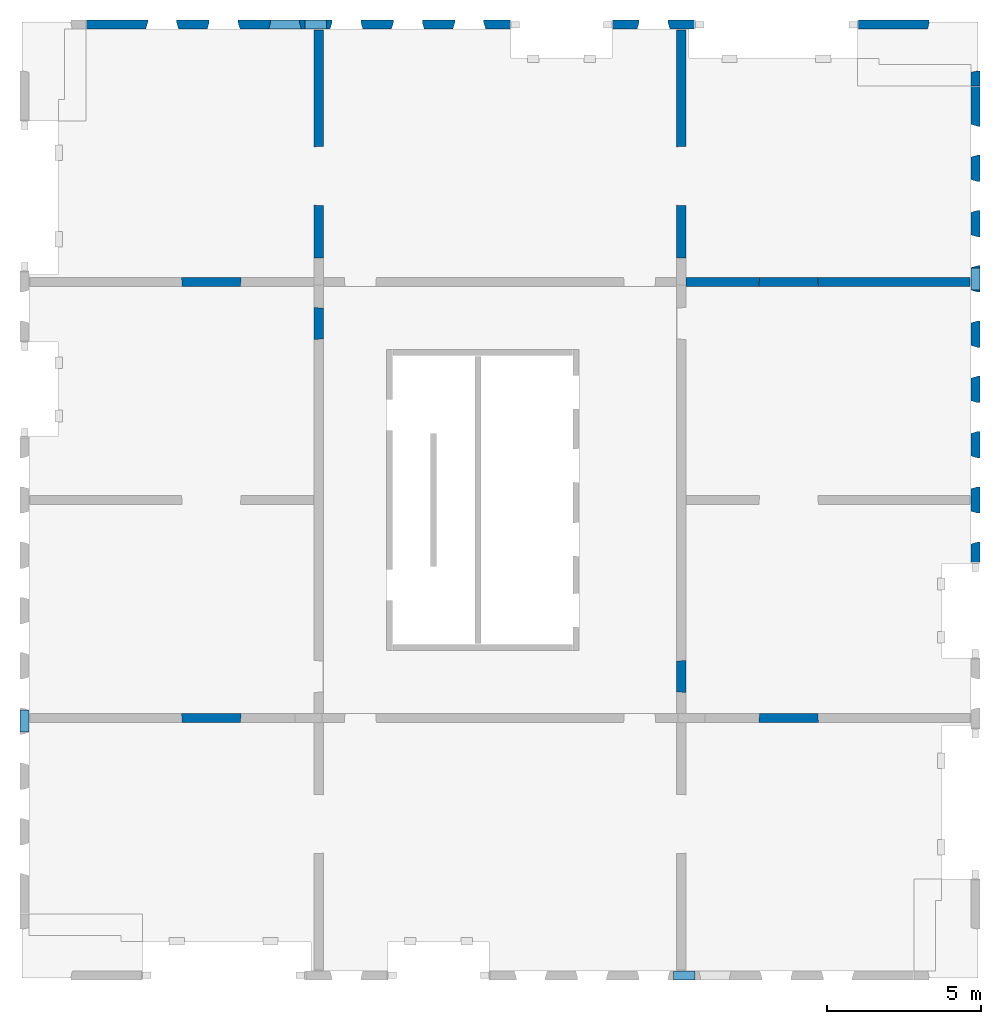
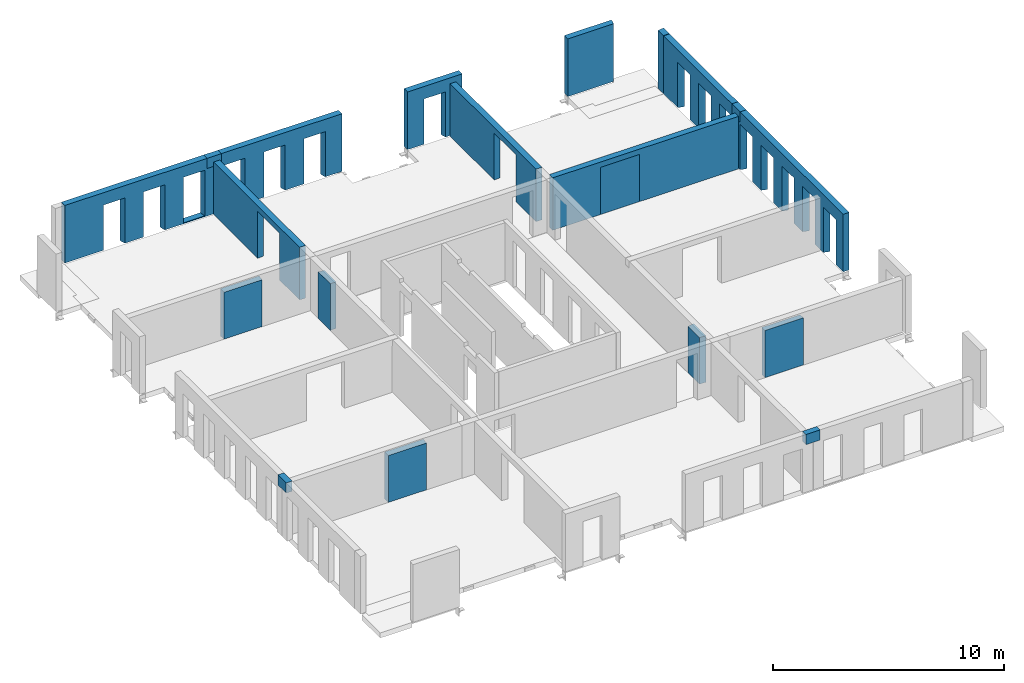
# One storey, part 4 of 4: 20 walls, 24 openings.
"""IFC2X3 building model written with IfcOpenShell, lengths in millimetres."""

from ifc_helpers import new_model, entity, si_unit, converted_unit, derived_unit, direction, frame, frame_2d, origin, origin_2d_with_axis, place, context, subcontext, project, spatial, rectangle, extrude, faceted_brep, material, layer, layer_set, layer_usage, type_object, element, save


model = new_model("IFC2X3")

# Units and contexts
model_context = context("Model", 3, precision=0.01, world=origin(), true_north=direction((6.12303176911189e-17, 1.0)))
body_context = subcontext(model_context, "Body", "Model", "MODEL_VIEW")
ifc_project = project(units=[si_unit("LENGTHUNIT", "METRE", prefix="MILLI"), si_unit("AREAUNIT", "SQUARE_METRE"), si_unit("VOLUMEUNIT", "CUBIC_METRE"), converted_unit("PLANEANGLEUNIT", "DEGREE", entity("IfcRatioMeasure", 0.0174532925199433), si_unit("PLANEANGLEUNIT", "RADIAN"), dimensions=[0, 0, 0, 0, 0, 0, 0]), si_unit("MASSUNIT", "GRAM", prefix="KILO"), derived_unit("MASSDENSITYUNIT", [(si_unit("MASSUNIT", "GRAM", prefix="KILO"), 1), (si_unit("LENGTHUNIT", "METRE"), -3)]), si_unit("TIMEUNIT", "SECOND"), si_unit("FREQUENCYUNIT", "HERTZ"), si_unit("THERMODYNAMICTEMPERATUREUNIT", "DEGREE_CELSIUS"), derived_unit("THERMALTRANSMITTANCEUNIT", [(si_unit("MASSUNIT", "GRAM", prefix="KILO"), 1), (si_unit("THERMODYNAMICTEMPERATUREUNIT", "KELVIN"), -1), (si_unit("TIMEUNIT", "SECOND"), -3)]), derived_unit("VOLUMETRICFLOWRATEUNIT", [(si_unit("LENGTHUNIT", "METRE"), 3), (si_unit("TIMEUNIT", "SECOND"), -1)]), si_unit("ELECTRICCURRENTUNIT", "AMPERE"), si_unit("ELECTRICVOLTAGEUNIT", "VOLT"), si_unit("POWERUNIT", "WATT"), si_unit("FORCEUNIT", "NEWTON", prefix="KILO"), si_unit("ILLUMINANCEUNIT", "LUX"), si_unit("LUMINOUSFLUXUNIT", "LUMEN"), si_unit("LUMINOUSINTENSITYUNIT", "CANDELA"), derived_unit("USERDEFINED", [(si_unit("MASSUNIT", "GRAM", prefix="KILO"), -1), (si_unit("LENGTHUNIT", "METRE"), -2), (si_unit("TIMEUNIT", "SECOND"), 3), (si_unit("LUMINOUSFLUXUNIT", "LUMEN"), 1)]), derived_unit("LINEARVELOCITYUNIT", [(si_unit("LENGTHUNIT", "METRE"), 1), (si_unit("TIMEUNIT", "SECOND"), -1)]), si_unit("PRESSUREUNIT", "PASCAL"), derived_unit("USERDEFINED", [(si_unit("LENGTHUNIT", "METRE"), -2), (si_unit("MASSUNIT", "GRAM", prefix="KILO"), 1), (si_unit("TIMEUNIT", "SECOND"), -2)])], contexts=[model_context])

# Site, building, storey
site_placement = place(None, origin())
site = spatial("IfcSite", under=ifc_project, at=site_placement, Name="Default", CompositionType="ELEMENT")
building_placement = place(site_placement, origin())
building = spatial("IfcBuilding", under=site, at=building_placement, Name="niet gebruiken", CompositionType="ELEMENT")
storey_placement = place(building_placement, frame((0.0, 0.0, 128160.0)))
storey = spatial("IfcBuildingStorey", under=building, at=storey_placement, Name="41 eenenveertigste verdieping", CompositionType="ELEMENT", Elevation=128160.0)

# Wall, opening
ifc_material_1 = material(Name="NLRS_f2_beton prefab")
ifc_layer_1 = layer(ifc_material_1, 300.0)
ifc_layer_set_1 = layer_set([ifc_layer_1], Name="Basic Wall:NLRS_22.21_WA_beton prefab d=300_gen")
ifc_layer_usage_1 = layer_usage(ifc_layer_set_1, "AXIS2", "NEGATIVE", 150.0)
wall_type_1 = type_object("IfcWallType", Name="Basic Wall:NLRS_22.21_WA_beton prefab d=300_gen", PredefinedType="STANDARD", material=ifc_layer_set_1)
wall_1_placement = place(storey_placement, frame((157060.0, 24600.0, -70.0), z_axis=(0.0, 0.0, 1.0), x_axis=(-1.0, 0.0, 0.0)))
wall_1 = element("IfcWallStandardCase", 1, at=wall_1_placement, inside=storey, type_object=wall_type_1, material=ifc_layer_usage_1, Name="Basic Wall:NLRS_22.21_WA_beton prefab d=300_gen", ObjectType="Basic Wall:NLRS_22.21_WA_beton prefab d=300_gen", context=body_context, shape_type="SweptSolid", body=[
    extrude(rectangle(XDim=9260.00000000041, YDim=300.000000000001, at=frame_2d((4630.0000000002, -1.69109171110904e-12), x_axis=(-1.0, 0.0))), origin(), (0.0, 0.0, 1.0), 2769.99999999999),
])
opening_1_placement = place(wall_1_placement, frame((6878.0, 150.0, 0.0)))
element("IfcOpeningElement", 2, at=opening_1_placement, cuts=wall_1, Name="Basic Wall:NLRS_22.21_WA_beton prefab d=300_gen", ObjectType="Opening", context=body_context, shape_type="Brep", body=[
    faceted_brep([(-18.0, -300.0, 2470.0), (-1918.0, -300.0, 2470.0), (-1918.0, -300.0, 0.0), (-18.0, -300.0, 0.0), (0.0, 0.0, 2488.0), (0.0, 0.0, 0.0), (-1936.0, 0.0, 0.0), (-1936.0, 0.0, 2488.0)], [[[0, 1, 2, 3]], [[4, 5, 6, 7]], [[4, 7, 1, 0]], [[7, 6, 2, 1]], [[6, 5, 3, 2]], [[5, 4, 0, 3]]]),
])

ifc_layer_usage_2 = layer_usage(ifc_layer_set_1, "AXIS2", "NEGATIVE", 150.0)
wall_2_placement = place(storey_placement, frame((135850.0, 25380.0, -70.0), z_axis=(0.0, 0.0, 1.0), x_axis=(0.0, 1.0, 0.0)))
wall_2 = element("IfcWallStandardCase", 3, at=wall_2_placement, inside=storey, type_object=wall_type_1, material=ifc_layer_usage_2, Name="Basic Wall:NLRS_22.21_WA_beton prefab d=300_gen", ObjectType="Basic Wall:NLRS_22.21_WA_beton prefab d=300_gen", context=body_context, shape_type="SweptSolid", body=[
    extrude(rectangle(XDim=7430.00000000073, YDim=300.000000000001, at=frame_2d((3715.00000000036, -5.62749846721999e-12), x_axis=(-1.0, 0.0))), origin(), (0.0, 0.0, 1.0), 2769.99999999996),
])
opening_2_placement = place(wall_2_placement, frame((1702.0, 150.0, 0.0)))
element("IfcOpeningElement", 4, at=opening_2_placement, cuts=wall_2, Name="Basic Wall:NLRS_22.21_WA_beton prefab d=300_gen", ObjectType="Opening", context=body_context, shape_type="Brep", body=[
    faceted_brep([(1918.0, 0.0, 2470.0), (1918.0, 0.0, 0.0), (18.0, 0.0, 0.0), (18.0, 0.0, 2470.0), (1936.0, -300.0, 2488.0), (0.0, -300.0, 2488.0), (0.0, -300.0, 0.0), (1936.0, -300.0, 0.0)], [[[0, 1, 2, 3]], [[4, 5, 6, 7]], [[4, 0, 3, 5]], [[5, 3, 2, 6]], [[6, 2, 1, 7]], [[7, 1, 0, 4]]]),
])

ifc_layer_usage_3 = layer_usage(ifc_layer_set_1, "AXIS2", "NEGATIVE", 150.0)
wall_3_placement = place(storey_placement, frame((147650.0, 25380.0, -70.0), z_axis=(0.0, 0.0, 1.0), x_axis=(0.0, 1.0, 0.0)))
wall_3 = element("IfcWallStandardCase", 5, at=wall_3_placement, inside=storey, type_object=wall_type_1, material=ifc_layer_usage_3, Name="Basic Wall:NLRS_22.21_WA_beton prefab d=300_gen", ObjectType="Basic Wall:NLRS_22.21_WA_beton prefab d=300_gen", context=body_context, shape_type="SweptSolid", body=[
    extrude(rectangle(XDim=7429.99999999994, YDim=300.000000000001, at=frame_2d((3714.99999999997, 7.14805992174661e-12), x_axis=(-1.0, 0.0))), origin(), (0.0, 0.0, 1.0), 2769.99999999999),
])
opening_3_placement = place(wall_3_placement, frame((1702.0, 150.0, 0.0)))
element("IfcOpeningElement", 6, at=opening_3_placement, cuts=wall_3, Name="Basic Wall:NLRS_22.21_WA_beton prefab d=300_gen", ObjectType="Opening", context=body_context, shape_type="Brep", body=[
    faceted_brep([(1918.0, 0.0, 2470.0), (1918.0, 0.0, 0.0), (18.0, 0.0, 0.0), (18.0, 0.0, 2470.0), (1936.0, -300.0, 2488.0), (0.0, -300.0, 2488.0), (0.0, -300.0, 0.0), (1936.0, -300.0, 0.0)], [[[0, 1, 2, 3]], [[4, 5, 6, 7]], [[4, 0, 3, 5]], [[5, 3, 2, 6]], [[6, 2, 1, 7]], [[7, 1, 0, 4]]]),
])

# Walls
ifc_material_2 = material(Name="NLRS_f2_beton ihwg")
ifc_layer_2 = layer(ifc_material_2, 300.0)
ifc_layer_set_2 = layer_set([ifc_layer_2], Name="Basic Wall:NLRS_21.21_WA_beton ihwg d=300_gen")
ifc_layer_usage_4 = layer_usage(ifc_layer_set_2, "AXIS2", "NEGATIVE", 150.0)
wall_type_2 = type_object("IfcWallType", Name="Basic Wall:NLRS_21.21_WA_beton ihwg d=300_gen", PredefinedType="STANDARD", material=ifc_layer_set_2)
wall_4_placement = place(storey_placement, frame((148105.0, 2020.0, 2455.0), z_axis=(0.0, 0.0, 1.0), x_axis=(-1.0, 0.0, 0.0)))
element("IfcWallStandardCase", 7, at=wall_4_placement, inside=storey, type_object=wall_type_2, material=ifc_layer_usage_4, Name="Basic Wall:NLRS_21.21_WA_beton ihwg d=300_gen", ObjectType="Basic Wall:NLRS_21.21_WA_beton ihwg d=300_gen", context=body_context, shape_type="SweptSolid", body=[
    extrude(rectangle(XDim=710.000000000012, YDim=300.0, at=frame_2d((355.000000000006, -1.4210854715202e-14), x_axis=(-1.0, 0.0))), origin(), (0.0, 0.0, 1.0), 535.0),
])
ifc_layer_usage_5 = layer_usage(ifc_layer_set_2, "AXIS2", "NEGATIVE", 150.0)
wall_5_placement = place(storey_placement, frame((135395.0, 32980.0, 2455.0)))
element("IfcWallStandardCase", 8, at=wall_5_placement, inside=storey, type_object=wall_type_2, material=ifc_layer_usage_5, Name="Basic Wall:NLRS_21.21_WA_beton ihwg d=300_gen", ObjectType="Basic Wall:NLRS_21.21_WA_beton ihwg d=300_gen", context=body_context, shape_type="SweptSolid", body=[
    extrude(rectangle(XDim=710.000000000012, YDim=300.000000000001, at=frame_2d((355.000000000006, 0.0), x_axis=(-1.0, 0.0))), origin(), (0.0, 0.0, 1.0), 535.0),
])
ifc_layer_usage_6 = layer_usage(ifc_layer_set_2, "AXIS2", "NEGATIVE", 150.0)
wall_6_placement = place(storey_placement, frame((157230.0, 25055.0, 2455.0), z_axis=(0.0, 0.0, 1.0), x_axis=(0.0, -1.0, 0.0)))
element("IfcWallStandardCase", 9, at=wall_6_placement, inside=storey, type_object=wall_type_2, material=ifc_layer_usage_6, Name="Basic Wall:NLRS_21.21_WA_beton ihwg d=300_gen", ObjectType="Basic Wall:NLRS_21.21_WA_beton ihwg d=300_gen", context=body_context, shape_type="SweptSolid", body=[
    extrude(rectangle(XDim=710.000000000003, YDim=300.000000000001, at=frame_2d((355.000000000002, 9.9475983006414e-13), x_axis=(-1.0, 0.0))), origin(), (0.0, 0.0, 1.0), 535.0),
])
ifc_layer_usage_7 = layer_usage(ifc_layer_set_2, "AXIS2", "NEGATIVE", 150.0)
wall_7_placement = place(storey_placement, frame((126270.0, 9945.0, 2455.0), z_axis=(0.0, 0.0, 1.0), x_axis=(0.0, 1.0, 0.0)))
element("IfcWallStandardCase", 10, at=wall_7_placement, inside=storey, type_object=wall_type_2, material=ifc_layer_usage_7, Name="Basic Wall:NLRS_21.21_WA_beton ihwg d=300_gen", ObjectType="Basic Wall:NLRS_21.21_WA_beton ihwg d=300_gen", context=body_context, shape_type="SweptSolid", body=[
    extrude(rectangle(XDim=710.000000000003, YDim=300.000000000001, at=frame_2d((355.000000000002, 0.0), x_axis=(-1.0, 0.0))), origin(), (0.0, 0.0, 1.0), 535.0),
])

# Wall, opening
ifc_layer_3 = layer(ifc_material_1, 300.0)
ifc_layer_set_3 = layer_set([ifc_layer_3], Name="Basic Wall:NLRS_21.21_WA_beton prefab d=300/320_gen")
ifc_layer_usage_8 = layer_usage(ifc_layer_set_3, "AXIS2", "NEGATIVE", 150.0)
wall_type_3 = type_object("IfcWallType", Name="Basic Wall:NLRS_21.21_WA_beton prefab d=300/320_gen", PredefinedType="STANDARD", material=ifc_layer_set_3)
wall_8_placement = place(storey_placement, frame((145390.0, 32980.0, -50.0)))
wall_8 = element("IfcWallStandardCase", 11, at=wall_8_placement, inside=storey, type_object=wall_type_3, material=ifc_layer_usage_8, Name="Basic Wall:NLRS_21.21_WA_beton prefab d=300/320_gen", ObjectType="Basic Wall:NLRS_21.21_WA_beton prefab d=300/320_gen", context=body_context, shape_type="SweptSolid", body=[
    extrude(rectangle(XDim=2720.00000000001, YDim=300.000000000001, at=frame_2d((1360.0, -4.54747350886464e-13), x_axis=(-1.0, 0.0))), origin(), (0.0, 0.0, 1.0), 3040.0),
])
opening_4_placement = place(wall_8_placement, frame((825.0, -150.0, -20.0)))
element("IfcOpeningElement", 12, at=opening_4_placement, cuts=wall_8, Name="Basic Wall:NLRS_21.21_WA_beton prefab d=300/320_gen", ObjectType="Opening", context=body_context, shape_type="Brep", body=[
    faceted_brep([(0.0, 0.0, 2405.0), (0.0, 0.0, 0.0), (1070.0, 0.0, 0.0), (1070.0, 0.0, 2405.0), (1005.0, 219.0, 2370.0), (65.0, 219.0, 2370.0), (1005.0, 219.0, 0.0), (65.0, 219.0, 0.0), (65.0, 300.0, 0.0), (1005.0, 300.0, 0.0), (65.0, 300.0, 2370.0), (1005.0, 300.0, 2370.0)], [[[0, 1, 2, 3]], [[3, 4, 5, 0]], [[2, 6, 4, 3]], [[1, 7, 8, 9, 6, 2]], [[0, 5, 7, 1]], [[10, 11, 9, 8]], [[10, 5, 4, 11]], [[11, 4, 6, 9]], [[8, 7, 5, 10]]]),
])

# Wall, openings
ifc_layer_usage_9 = layer_usage(ifc_layer_set_3, "AXIS2", "NEGATIVE", 150.0)
wall_9_placement = place(storey_placement, frame((128290.0, 32980.0, -50.0)))
wall_9 = element("IfcWallStandardCase", 13, at=wall_9_placement, inside=storey, type_object=wall_type_3, material=ifc_layer_usage_9, Name="Basic Wall:NLRS_21.21_WA_beton prefab d=300/320_gen", ObjectType="Basic Wall:NLRS_21.21_WA_beton prefab d=300/320_gen", context=body_context, shape_type="SweptSolid", body=[
    extrude(rectangle(XDim=7449.9999999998, YDim=300.000000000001, at=frame_2d((3724.9999999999, 0.0), x_axis=(-1.0, 0.0))), origin(), (0.0, 0.0, 1.0), 3040.0),
])
opening_5_placement = place(wall_9_placement, frame((3925.0, -150.0, -20.0)))
element("IfcOpeningElement", 14, at=opening_5_placement, cuts=wall_9, Name="Basic Wall:NLRS_21.21_WA_beton prefab d=300/320_gen", ObjectType="Opening", context=body_context, shape_type="Brep", body=[
    faceted_brep([(1070.0, 0.0, 2405.0), (0.0, 0.0, 2405.0), (0.0, 0.0, 0.0), (1070.0, 0.0, 0.0), (1005.0, 219.0, 2370.0), (65.0, 219.0, 2370.0), (65.0, 219.0, 0.0), (65.0, 300.0, 0.0), (1005.0, 300.0, 0.0), (1005.0, 219.0, 0.0), (1005.0, 300.0, 2370.0), (65.0, 300.0, 2370.0)], [[[0, 1, 2, 3]], [[1, 0, 4, 5]], [[2, 1, 5, 6]], [[3, 2, 6, 7, 8, 9]], [[0, 3, 9, 4]], [[10, 8, 7, 11]], [[10, 11, 5, 4]], [[11, 7, 6, 5]], [[8, 10, 4, 9]]]),
])
opening_6_placement = place(wall_9_placement, frame((1925.0, -150.0, -20.0)))
element("IfcOpeningElement", 15, at=opening_6_placement, cuts=wall_9, Name="Basic Wall:NLRS_21.21_WA_beton prefab d=300/320_gen", ObjectType="Opening", context=body_context, shape_type="Brep", body=[
    faceted_brep([(1070.0, 0.0, 2405.0), (0.0, 0.0, 2405.0), (0.0, 0.0, 0.0), (1070.0, 0.0, 0.0), (1005.0, 219.0, 2370.0), (65.0, 219.0, 2370.0), (65.0, 219.0, 0.0), (65.0, 300.0, 0.0), (1005.0, 300.0, 0.0), (1005.0, 219.0, 0.0), (1005.0, 300.0, 2370.0), (65.0, 300.0, 2370.0)], [[[0, 1, 2, 3]], [[1, 0, 4, 5]], [[2, 1, 5, 6]], [[3, 2, 6, 7, 8, 9]], [[0, 3, 9, 4]], [[10, 8, 7, 11]], [[10, 11, 5, 4]], [[11, 7, 6, 5]], [[8, 10, 4, 9]]]),
])
opening_7_placement = place(wall_9_placement, frame((5925.0, -150.0, 50.0)))
element("IfcOpeningElement", 16, at=opening_7_placement, cuts=wall_9, Name="Basic Wall:NLRS_21.21_WA_beton prefab d=300/320_gen", ObjectType="Opening", context=body_context, shape_type="Brep", body=[
    faceted_brep([(1070.0, 0.0, 2405.0), (0.0, 0.0, 2405.0), (0.0, 0.0, 0.0), (1070.0, 0.0, 0.0), (1005.0, 219.0, 2370.0), (65.0, 219.0, 2370.0), (65.0, 219.0, 0.0), (65.0, 300.0, 0.0), (1005.0, 300.0, 0.0), (1005.0, 219.0, 0.0), (1005.0, 300.0, 2370.0), (65.0, 300.0, 2370.0)], [[[0, 1, 2, 3]], [[1, 0, 4, 5]], [[2, 1, 5, 6]], [[3, 2, 6, 7, 8, 9]], [[0, 3, 9, 4]], [[10, 8, 7, 11]], [[10, 11, 5, 4]], [[11, 7, 6, 5]], [[8, 10, 4, 9]]]),
])
opening_8_placement = place(wall_9_placement, origin())
element("IfcOpeningElement", 17, at=opening_8_placement, cuts=wall_9, Name="Basic Wall:NLRS_21.21_WA_beton prefab d=300/320_gen", ObjectType="Opening", context=body_context, shape_type="SweptSolid", body=[
    extrude(rectangle(XDim=535.0, YDim=344.999999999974, at=origin_2d_with_axis()), frame((7277.49999999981, 150.0, 2772.5), z_axis=(0.0, -1.0, 0.0), x_axis=(0.0, 0.0, 1.0)), (0.0, 0.0, 1.0), 300.0),
])

ifc_layer_usage_10 = layer_usage(ifc_layer_set_3, "AXIS2", "NEGATIVE", 150.0)
wall_10_placement = place(storey_placement, frame((157230.0, 30960.0, -50.0), z_axis=(0.0, 0.0, 1.0), x_axis=(0.0, -1.0, 0.0)))
wall_10 = element("IfcWallStandardCase", 18, at=wall_10_placement, inside=storey, type_object=wall_type_3, material=ifc_layer_usage_10, Name="Basic Wall:NLRS_21.21_WA_beton prefab d=300/320_gen", ObjectType="Basic Wall:NLRS_21.21_WA_beton prefab d=300/320_gen", context=body_context, shape_type="SweptSolid", body=[
    extrude(rectangle(XDim=6249.99999999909, YDim=300.000000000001, at=frame_2d((3124.99999999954, -8.61177795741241e-12), x_axis=(-1.0, 0.0))), origin(), (0.0, 0.0, 1.0), 3040.0),
])
opening_9_placement = place(wall_10_placement, frame((2295.0, -150.0, -20.0)))
element("IfcOpeningElement", 19, at=opening_9_placement, cuts=wall_10, Name="Basic Wall:NLRS_21.21_WA_beton prefab d=300/320_gen", ObjectType="Opening", context=body_context, shape_type="Brep", body=[
    faceted_brep([(-1070.0, 0.0, 2405.0), (-1070.0, 0.0, 0.0), (0.0, 0.0, 0.0), (0.0, 0.0, 2405.0), (-65.0, 219.0, 2370.0), (-1005.0, 219.0, 2370.0), (-65.0, 219.0, 0.0), (-1005.0, 219.0, 0.0), (-1005.0, 300.0, 0.0), (-65.0, 300.0, 0.0), (-1005.0, 300.0, 2370.0), (-65.0, 300.0, 2370.0)], [[[0, 1, 2, 3]], [[3, 4, 5, 0]], [[2, 6, 4, 3]], [[1, 7, 8, 9, 6, 2]], [[0, 5, 7, 1]], [[10, 11, 9, 8]], [[10, 5, 4, 11]], [[11, 4, 6, 9]], [[8, 7, 5, 10]]]),
])
opening_10_placement = place(wall_10_placement, frame((4095.0, -150.0, -20.0)))
element("IfcOpeningElement", 20, at=opening_10_placement, cuts=wall_10, Name="Basic Wall:NLRS_21.21_WA_beton prefab d=300/320_gen", ObjectType="Opening", context=body_context, shape_type="Brep", body=[
    faceted_brep([(-1070.0, 0.0, 2405.0), (-1070.0, 0.0, 0.0), (0.0, 0.0, 0.0), (0.0, 0.0, 2405.0), (-65.0, 219.0, 2370.0), (-1005.0, 219.0, 2370.0), (-65.0, 219.0, 0.0), (-1005.0, 219.0, 0.0), (-1005.0, 300.0, 0.0), (-65.0, 300.0, 0.0), (-1005.0, 300.0, 2370.0), (-65.0, 300.0, 2370.0)], [[[0, 1, 2, 3]], [[3, 4, 5, 0]], [[2, 6, 4, 3]], [[1, 7, 8, 9, 6, 2]], [[0, 5, 7, 1]], [[10, 11, 9, 8]], [[10, 5, 4, 11]], [[11, 4, 6, 9]], [[8, 7, 5, 10]]]),
])
opening_11_placement = place(wall_10_placement, frame((5895.0, -150.0, -20.0)))
element("IfcOpeningElement", 21, at=opening_11_placement, cuts=wall_10, Name="Basic Wall:NLRS_21.21_WA_beton prefab d=300/320_gen", ObjectType="Opening", context=body_context, shape_type="Brep", body=[
    faceted_brep([(-1070.0, 0.0, 2405.0), (-1070.0, 0.0, 0.0), (0.0, 0.0, 0.0), (0.0, 0.0, 2405.0), (-65.0, 219.0, 2370.0), (-1005.0, 219.0, 2370.0), (-65.0, 219.0, 0.0), (-1005.0, 219.0, 0.0), (-1005.0, 300.0, 0.0), (-65.0, 300.0, 0.0), (-1005.0, 300.0, 2370.0), (-65.0, 300.0, 2370.0)], [[[0, 1, 2, 3]], [[3, 4, 5, 0]], [[2, 6, 4, 3]], [[1, 7, 8, 9, 6, 2]], [[0, 5, 7, 1]], [[10, 11, 9, 8]], [[10, 5, 4, 11]], [[11, 4, 6, 9]], [[8, 7, 5, 10]]]),
])
opening_12_placement = place(wall_10_placement, origin())
element("IfcOpeningElement", 22, at=opening_12_placement, cuts=wall_10, Name="Basic Wall:NLRS_21.21_WA_beton prefab d=300/320_gen", ObjectType="Opening", context=body_context, shape_type="SweptSolid", body=[
    extrude(rectangle(XDim=534.99999999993, YDim=344.999999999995, at=frame_2d((0.0, -2.17426077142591e-12), x_axis=(1.0, 0.0))), frame((6077.49999999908, 150.0, 2772.50000000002), z_axis=(0.0, -1.0, 0.0), x_axis=(0.0, 0.0, 1.0)), (0.0, 0.0, 1.0), 300.0),
])

# Wall, opening
ifc_layer_usage_11 = layer_usage(ifc_layer_set_3, "AXIS2", "NEGATIVE", 150.0)
wall_11_placement = place(storey_placement, frame((153390.0, 32980.0, -50.0)))
wall_11 = element("IfcWallStandardCase", 23, at=wall_11_placement, inside=storey, type_object=wall_type_3, material=ifc_layer_usage_11, Name="Basic Wall:NLRS_21.21_WA_beton prefab d=300/320_gen", ObjectType="Basic Wall:NLRS_21.21_WA_beton prefab d=300/320_gen", context=body_context, shape_type="SweptSolid", body=[
    extrude(rectangle(XDim=2330.00000000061, YDim=300.000000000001, at=frame_2d((1165.00000000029, -1.29318777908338e-12), x_axis=(-1.0, 0.0))), origin(), (0.0, 0.0, 1.0), 3040.0),
])
opening_13_placement = place(wall_11_placement, frame((2265.0, -250.0, 0.0)))
element("IfcOpeningElement", 24, at=opening_13_placement, cuts=wall_11, Name="Basic Wall:NLRS_21.21_WA_beton prefab d=300/320_gen", ObjectType="Opening", context=body_context, shape_type="Brep", body=[
    faceted_brep([(65.0, 0.0, 3040.0), (65.0, 319.0, 3040.0), (0.0, 0.0, 3040.0), (65.0, 0.0, 0.0), (0.0, 0.0, 0.0), (65.0, 319.0, 0.0)], [[[0, 1, 2]], [[3, 4, 5]], [[2, 4, 3, 0]], [[0, 3, 5, 1]], [[1, 5, 4, 2]]]),
])

ifc_layer_usage_12 = layer_usage(ifc_layer_set_3, "AXIS2", "NEGATIVE", 150.0)
wall_12_placement = place(storey_placement, frame((157230.0, 31470.0, -50.0), z_axis=(0.0, 0.0, 1.0), x_axis=(0.0, -1.0, 0.0)))
wall_12 = element("IfcWallStandardCase", 25, at=wall_12_placement, inside=storey, type_object=wall_type_3, material=ifc_layer_usage_12, Name="Basic Wall:NLRS_21.21_WA_beton prefab d=300/320_gen", ObjectType="Basic Wall:NLRS_21.21_WA_beton prefab d=300/320_gen", context=body_context, shape_type="SweptSolid", body=[
    extrude(rectangle(XDim=489.999999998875, YDim=300.000000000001, at=frame_2d((244.999999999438, -7.8159700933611e-13), x_axis=(-1.0, 0.0))), origin(), (0.0, 0.0, 1.0), 3040.0),
])
opening_14_placement = place(wall_12_placement, frame((65.0, -250.0, 0.0)))
element("IfcOpeningElement", 26, at=opening_14_placement, cuts=wall_12, Name="Basic Wall:NLRS_21.21_WA_beton prefab d=300/320_gen", ObjectType="Opening", context=body_context, shape_type="Brep", body=[
    faceted_brep([(-65.0, 0.0, 3040.0), (0.0, 0.0, 3040.0), (-65.0, 319.0, 3040.0), (-65.0, 0.0, 0.0), (-65.0, 319.0, 0.0), (0.0, 0.0, 0.0)], [[[0, 1, 2]], [[3, 4, 5]], [[1, 0, 3, 5]], [[0, 2, 4, 3]], [[2, 1, 5, 4]]]),
])

# Wall, openings
ifc_layer_usage_13 = layer_usage(ifc_layer_set_3, "AXIS2", "NEGATIVE", 150.0)
wall_13_placement = place(storey_placement, frame((157230.0, 24690.0, -50.0), z_axis=(0.0, 0.0, 1.0), x_axis=(0.0, -1.0, 0.0)))
wall_13 = element("IfcWallStandardCase", 27, at=wall_13_placement, inside=storey, type_object=wall_type_3, material=ifc_layer_usage_13, Name="Basic Wall:NLRS_21.21_WA_beton prefab d=300/320_gen", ObjectType="Basic Wall:NLRS_21.21_WA_beton prefab d=300/320_gen", context=body_context, shape_type="SweptSolid", body=[
    extrude(rectangle(XDim=9250.00000000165, YDim=300.000000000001, at=frame_2d((4625.00000000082, -4.43378667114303e-12), x_axis=(-1.0, 0.0))), origin(), (0.0, 0.0, 1.0), 3040.0),
])
opening_15_placement = place(wall_13_placement, frame((8625.0, -150.0, -20.0)))
element("IfcOpeningElement", 28, at=opening_15_placement, cuts=wall_13, Name="Basic Wall:NLRS_21.21_WA_beton prefab d=300/320_gen", ObjectType="Opening", context=body_context, shape_type="Brep", body=[
    faceted_brep([(-1070.0, 0.0, 2405.0), (-1070.0, 0.0, 0.0), (0.0, 0.0, 0.0), (0.0, 0.0, 2405.0), (-65.0, 219.0, 2370.0), (-1005.0, 219.0, 2370.0), (-65.0, 219.0, 0.0), (-1005.0, 219.0, 0.0), (-1005.0, 300.0, 0.0), (-65.0, 300.0, 0.0), (-1005.0, 300.0, 2370.0), (-65.0, 300.0, 2370.0)], [[[0, 1, 2, 3]], [[3, 4, 5, 0]], [[2, 6, 4, 3]], [[1, 7, 8, 9, 6, 2]], [[0, 5, 7, 1]], [[10, 11, 9, 8]], [[10, 5, 4, 11]], [[11, 4, 6, 9]], [[8, 7, 5, 10]]]),
])
opening_16_placement = place(wall_13_placement, frame((5025.0, -150.0, -20.0)))
element("IfcOpeningElement", 29, at=opening_16_placement, cuts=wall_13, Name="Basic Wall:NLRS_21.21_WA_beton prefab d=300/320_gen", ObjectType="Opening", context=body_context, shape_type="Brep", body=[
    faceted_brep([(-1070.0, 0.0, 2405.0), (-1070.0, 0.0, 0.0), (0.0, 0.0, 0.0), (0.0, 0.0, 2405.0), (-65.0, 219.0, 2370.0), (-1005.0, 219.0, 2370.0), (-65.0, 219.0, 0.0), (-1005.0, 219.0, 0.0), (-1005.0, 300.0, 0.0), (-65.0, 300.0, 0.0), (-1005.0, 300.0, 2370.0), (-65.0, 300.0, 2370.0)], [[[0, 1, 2, 3]], [[3, 4, 5, 0]], [[2, 6, 4, 3]], [[1, 7, 8, 9, 6, 2]], [[0, 5, 7, 1]], [[10, 11, 9, 8]], [[10, 5, 4, 11]], [[11, 4, 6, 9]], [[8, 7, 5, 10]]]),
])
opening_17_placement = place(wall_13_placement, frame((3225.0, -150.0, -20.0)))
element("IfcOpeningElement", 30, at=opening_17_placement, cuts=wall_13, Name="Basic Wall:NLRS_21.21_WA_beton prefab d=300/320_gen", ObjectType="Opening", context=body_context, shape_type="Brep", body=[
    faceted_brep([(-1070.0, 0.0, 2405.0), (-1070.0, 0.0, 0.0), (0.0, 0.0, 0.0), (0.0, 0.0, 2405.0), (-65.0, 219.0, 2370.0), (-1005.0, 219.0, 2370.0), (-65.0, 219.0, 0.0), (-1005.0, 219.0, 0.0), (-1005.0, 300.0, 0.0), (-65.0, 300.0, 0.0), (-1005.0, 300.0, 2370.0), (-65.0, 300.0, 2370.0)], [[[0, 1, 2, 3]], [[3, 4, 5, 0]], [[2, 6, 4, 3]], [[1, 7, 8, 9, 6, 2]], [[0, 5, 7, 1]], [[10, 11, 9, 8]], [[10, 5, 4, 11]], [[11, 4, 6, 9]], [[8, 7, 5, 10]]]),
])
opening_18_placement = place(wall_13_placement, frame((6825.0, -150.0, -20.0)))
element("IfcOpeningElement", 31, at=opening_18_placement, cuts=wall_13, Name="Basic Wall:NLRS_21.21_WA_beton prefab d=300/320_gen", ObjectType="Opening", context=body_context, shape_type="Brep", body=[
    faceted_brep([(-1070.0, 0.0, 2405.0), (-1070.0, 0.0, 0.0), (0.0, 0.0, 0.0), (0.0, 0.0, 2405.0), (-65.0, 219.0, 2370.0), (-1005.0, 219.0, 2370.0), (-65.0, 219.0, 0.0), (-1005.0, 219.0, 0.0), (-1005.0, 300.0, 0.0), (-65.0, 300.0, 0.0), (-1005.0, 300.0, 2370.0), (-65.0, 300.0, 2370.0)], [[[0, 1, 2, 3]], [[3, 4, 5, 0]], [[2, 6, 4, 3]], [[1, 7, 8, 9, 6, 2]], [[0, 5, 7, 1]], [[10, 11, 9, 8]], [[10, 5, 4, 11]], [[11, 4, 6, 9]], [[8, 7, 5, 10]]]),
])
opening_19_placement = place(wall_13_placement, frame((1425.0, -150.0, -20.0)))
element("IfcOpeningElement", 32, at=opening_19_placement, cuts=wall_13, Name="Basic Wall:NLRS_21.21_WA_beton prefab d=300/320_gen", ObjectType="Opening", context=body_context, shape_type="Brep", body=[
    faceted_brep([(0.0, 0.0, 2405.0), (-1070.0, 0.0, 2405.0), (-1070.0, 0.0, 0.0), (0.0, 0.0, 0.0), (-65.0, 219.0, 2370.0), (-1005.0, 219.0, 2370.0), (-1005.0, 219.0, 0.0), (-1005.0, 300.0, 0.0), (-65.0, 300.0, 0.0), (-65.0, 219.0, 0.0), (-65.0, 300.0, 2370.0), (-1005.0, 300.0, 2370.0)], [[[0, 1, 2, 3]], [[1, 0, 4, 5]], [[2, 1, 5, 6]], [[3, 2, 6, 7, 8, 9]], [[0, 3, 9, 4]], [[10, 8, 7, 11]], [[10, 11, 5, 4]], [[11, 7, 6, 5]], [[8, 10, 4, 9]]]),
])
opening_20_placement = place(wall_13_placement, origin())
element("IfcOpeningElement", 33, at=opening_20_placement, cuts=wall_13, Name="Basic Wall:NLRS_21.21_WA_beton prefab d=300/320_gen", ObjectType="Opening", context=body_context, shape_type="SweptSolid", body=[
    extrude(rectangle(XDim=534.999999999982, YDim=345.000000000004, at=frame_2d((-2.1600499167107e-12, -8.66862137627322e-12), x_axis=(0.0, 1.0))), frame((172.5, 150.0, 2772.5), z_axis=(0.0, -1.0, 0.0), x_axis=(-1.0, 0.0, 0.0)), (0.0, 0.0, 1.0), 300.0),
])

ifc_layer_usage_14 = layer_usage(ifc_layer_set_3, "AXIS2", "NEGATIVE", 150.0)
wall_14_placement = place(storey_placement, frame((135760.0, 32980.0, -50.0)))
wall_14 = element("IfcWallStandardCase", 34, at=wall_14_placement, inside=storey, type_object=wall_type_3, material=ifc_layer_usage_14, Name="Basic Wall:NLRS_21.21_WA_beton prefab d=300/320_gen", ObjectType="Basic Wall:NLRS_21.21_WA_beton prefab d=300/320_gen", context=body_context, shape_type="SweptSolid", body=[
    extrude(rectangle(XDim=6350.00000000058, YDim=300.000000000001, at=frame_2d((3175.00000000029, 0.0), x_axis=(-1.0, 0.0))), origin(), (0.0, 0.0, 1.0), 3040.0),
])
opening_21_placement = place(wall_14_placement, frame((455.0, -150.0, -20.0)))
element("IfcOpeningElement", 35, at=opening_21_placement, cuts=wall_14, Name="Basic Wall:NLRS_21.21_WA_beton prefab d=300/320_gen", ObjectType="Opening", context=body_context, shape_type="Brep", body=[
    faceted_brep([(1070.0, 0.0, 2405.0), (0.0, 0.0, 2405.0), (0.0, 0.0, 0.0), (1070.0, 0.0, 0.0), (1005.0, 219.0, 2370.0), (65.0, 219.0, 2370.0), (65.0, 219.0, 0.0), (65.0, 300.0, 0.0), (1005.0, 300.0, 0.0), (1005.0, 219.0, 0.0), (1005.0, 300.0, 2370.0), (65.0, 300.0, 2370.0)], [[[0, 1, 2, 3]], [[1, 0, 4, 5]], [[2, 1, 5, 6]], [[3, 2, 6, 7, 8, 9]], [[0, 3, 9, 4]], [[10, 8, 7, 11]], [[10, 11, 5, 4]], [[11, 7, 6, 5]], [[8, 10, 4, 9]]]),
])
opening_22_placement = place(wall_14_placement, frame((2455.0, -150.0, -20.0)))
element("IfcOpeningElement", 36, at=opening_22_placement, cuts=wall_14, Name="Basic Wall:NLRS_21.21_WA_beton prefab d=300/320_gen", ObjectType="Opening", context=body_context, shape_type="Brep", body=[
    faceted_brep([(1070.0, 0.0, 2405.0), (0.0, 0.0, 2405.0), (0.0, 0.0, 0.0), (1070.0, 0.0, 0.0), (1005.0, 219.0, 2370.0), (65.0, 219.0, 2370.0), (65.0, 219.0, 0.0), (65.0, 300.0, 0.0), (1005.0, 300.0, 0.0), (1005.0, 219.0, 0.0), (1005.0, 300.0, 2370.0), (65.0, 300.0, 2370.0)], [[[0, 1, 2, 3]], [[1, 0, 4, 5]], [[2, 1, 5, 6]], [[3, 2, 6, 7, 8, 9]], [[0, 3, 9, 4]], [[10, 8, 7, 11]], [[10, 11, 5, 4]], [[11, 7, 6, 5]], [[8, 10, 4, 9]]]),
])
opening_23_placement = place(wall_14_placement, frame((4455.0, -150.0, -20.0)))
element("IfcOpeningElement", 37, at=opening_23_placement, cuts=wall_14, Name="Basic Wall:NLRS_21.21_WA_beton prefab d=300/320_gen", ObjectType="Opening", context=body_context, shape_type="Brep", body=[
    faceted_brep([(1070.0, 0.0, 2405.0), (0.0, 0.0, 2405.0), (0.0, 0.0, 0.0), (1070.0, 0.0, 0.0), (1005.0, 219.0, 2370.0), (65.0, 219.0, 2370.0), (65.0, 219.0, 0.0), (65.0, 300.0, 0.0), (1005.0, 300.0, 0.0), (1005.0, 219.0, 0.0), (1005.0, 300.0, 2370.0), (65.0, 300.0, 2370.0)], [[[0, 1, 2, 3]], [[1, 0, 4, 5]], [[2, 1, 5, 6]], [[3, 2, 6, 7, 8, 9]], [[0, 3, 9, 4]], [[10, 8, 7, 11]], [[10, 11, 5, 4]], [[11, 7, 6, 5]], [[8, 10, 4, 9]]]),
])
opening_24_placement = place(wall_14_placement, origin())
element("IfcOpeningElement", 38, at=opening_24_placement, cuts=wall_14, Name="Basic Wall:NLRS_21.21_WA_beton prefab d=300/320_gen", ObjectType="Opening", context=body_context, shape_type="SweptSolid", body=[
    extrude(rectangle(XDim=534.999999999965, YDim=345.000000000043, at=frame_2d((0.0, 0.0), x_axis=(0.0, 1.0))), frame((172.500000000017, 150.0, 2772.5), z_axis=(0.0, -1.0, 0.0), x_axis=(-1.0, 0.0, 0.0)), (0.0, 0.0, 1.0), 300.0),
])

# Walls
ifc_material_3 = material(Name="NLRS_f2_beton prefab dichtstorten")
wall_type_4 = type_object("IfcWallType", Name="Parametric Wall:NLRS_22.21_WA_beton prefab d=500 1900x2470_gen", PredefinedType="NOTDEFINED", material=ifc_material_3)
for number, where in (
    (39, (131382.0, 10250.0, -70.0)),
    (40, (131382.0, 24450.0, -70.0)),
):
    element("IfcWall", number, at=place(storey_placement, frame(where)), inside=storey, type_object=wall_type_4, material=ifc_material_3, Name="Parametric Wall:NLRS_22.21_WA_beton prefab d=500 1900x2470_gen", ObjectType="Parametric Wall:NLRS_22.21_WA_beton prefab d=500 1900x2470_gen", context=body_context, shape_type="Brep", body=[
        faceted_brep([(1936.0, 300.0, 2488.0), (1936.0, 300.0, 0.0), (0.0, 300.0, 0.0), (0.0, 300.0, 2488.0), (1918.0, 0.0, 2470.0), (18.0, 0.0, 2470.0), (18.0, 0.0, 0.0), (1918.0, 0.0, 0.0)], [[[0, 1, 2, 3]], [[4, 5, 6, 7]], [[4, 7, 1, 0]], [[7, 6, 2, 1]], [[6, 5, 3, 2]], [[5, 4, 0, 3]]]),
    ])
for number, where in (
    (41, (150182.0, 24450.0, -70.0)),
    (42, (150182.0, 10250.0, -70.0)),
):
    element("IfcWall", number, at=place(storey_placement, frame(where)), inside=storey, type_object=wall_type_4, material=ifc_material_3, Name="Parametric Wall:NLRS_22.21_WA_beton prefab d=500 1900x2470_gen", ObjectType="Parametric Wall:NLRS_22.21_WA_beton prefab d=500 1900x2470_gen", context=body_context, shape_type="Brep", body=[
        faceted_brep([(0.0, 0.0, 2488.0), (0.0, 0.0, 0.0), (1936.0, 0.0, 0.0), (1936.0, 0.0, 2488.0), (18.0, 300.0, 2470.0), (1918.0, 300.0, 2470.0), (1918.0, 300.0, 0.0), (18.0, 300.0, 0.0)], [[[0, 1, 2, 3]], [[4, 5, 6, 7]], [[4, 7, 1, 0]], [[7, 6, 2, 1]], [[6, 5, 3, 2]], [[5, 4, 0, 3]]]),
    ])
wall_type_5 = type_object("IfcWallType", Name="Parametric Wall:NLRS_22.21_WA_beton prefab d=500 1006x2448_gen", PredefinedType="NOTDEFINED", material=ifc_material_3)
wall_15_placement = place(storey_placement, frame((147500.0, 11232.0, -70.0), z_axis=(0.0, 0.0, 1.0), x_axis=(0.0, 1.0, 0.0)))
element("IfcWall", 43, at=wall_15_placement, inside=storey, type_object=wall_type_5, material=ifc_material_3, Name="Parametric Wall:NLRS_22.21_WA_beton prefab d=500 1006x2448_gen", ObjectType="Parametric Wall:NLRS_22.21_WA_beton prefab d=500 1006x2448_gen", context=body_context, shape_type="Brep", body=[
    faceted_brep([(0.0, -300.0, 2466.0), (0.0, -300.0, 0.0), (1042.0, -300.0, 0.0), (1042.0, -300.0, 2466.0), (18.0, 0.0, 2448.0), (1024.0, 0.0, 2448.0), (1024.0, 0.0, 0.0), (18.0, 0.0, 0.0)], [[[0, 1, 2, 3]], [[4, 5, 6, 7]], [[4, 7, 1, 0]], [[7, 6, 2, 1]], [[6, 5, 3, 2]], [[5, 4, 0, 3]]]),
])
wall_16_placement = place(storey_placement, frame((135700.0, 22726.0, -70.0), z_axis=(0.0, 0.0, 1.0), x_axis=(0.0, 1.0, 0.0)))
element("IfcWall", 44, at=wall_16_placement, inside=storey, type_object=wall_type_5, material=ifc_material_3, Name="Parametric Wall:NLRS_22.21_WA_beton prefab d=500 1006x2448_gen", ObjectType="Parametric Wall:NLRS_22.21_WA_beton prefab d=500 1006x2448_gen", context=body_context, shape_type="Brep", body=[
    faceted_brep([(1042.0, 0.0, 2466.0), (1042.0, 0.0, 0.0), (0.0, 0.0, 0.0), (0.0, 0.0, 2466.0), (1024.0, -300.0, 2448.0), (18.0, -300.0, 2448.0), (18.0, -300.0, 0.0), (1024.0, -300.0, 0.0)], [[[0, 1, 2, 3]], [[4, 5, 6, 7]], [[4, 7, 1, 0]], [[7, 6, 2, 1]], [[6, 5, 3, 2]], [[5, 4, 0, 3]]]),
])

save(model, "model.ifc")
